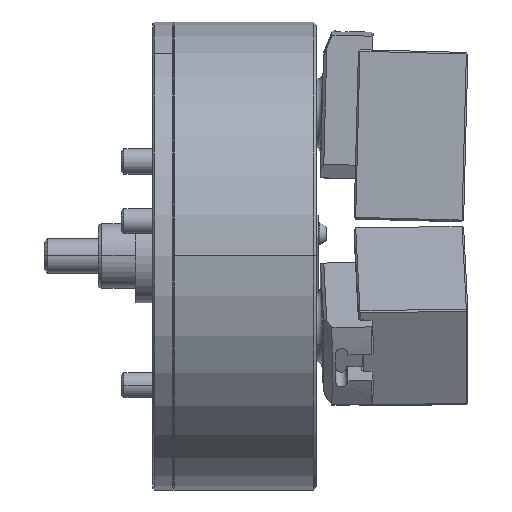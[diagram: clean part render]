
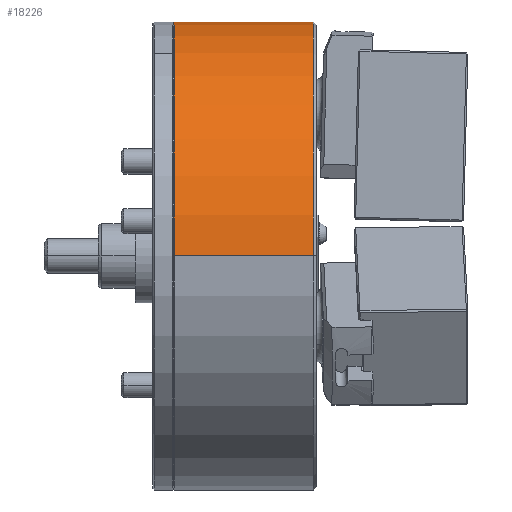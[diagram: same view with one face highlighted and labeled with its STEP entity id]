
A CAD part, top view. The second image highlights one B-rep face of the part: STEP entity #18226.
In plain terms, the highlighted cylindrical face has radius 150 mm (diameter 300 mm), a partial arc.
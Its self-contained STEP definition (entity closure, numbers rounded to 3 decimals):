
#20 = LINE ( 'NONE', #11459, #13282 ) ;
#2689 = CIRCLE ( 'NONE', #34589, 150. ) ;
#2725 = CARTESIAN_POINT ( 'NONE',  ( -2., 0., -150. ) ) ;
#2867 = DIRECTION ( 'NONE',  ( 0., 0., -1. ) ) ;
#4627 = CARTESIAN_POINT ( 'NONE',  ( -91.2, 0., -150. ) ) ;
#6179 = ORIENTED_EDGE ( 'NONE', *, *, #35058, .F. ) ;
#7551 = ORIENTED_EDGE ( 'NONE', *, *, #34485, .F. ) ;
#7895 = VERTEX_POINT ( 'NONE', #38786 ) ;
#8002 = LINE ( 'NONE', #8251, #35231 ) ;
#8251 = CARTESIAN_POINT ( 'NONE',  ( 63.843, 0., 150. ) ) ;
#10216 = EDGE_LOOP ( 'NONE', ( #42455, #22753, #6179, #7551 ) ) ;
#11459 = CARTESIAN_POINT ( 'NONE',  ( 63.843, 0., -150. ) ) ;
#12322 = AXIS2_PLACEMENT_3D ( 'NONE', #45600, #31124, #2867 ) ;
#13282 = VECTOR ( 'NONE', #37118, 1000. ) ;
#13746 = DIRECTION ( 'NONE',  ( 1., 0., 0. ) ) ;
#17810 = DIRECTION ( 'NONE',  ( 0., 0., -1. ) ) ;
#17878 = CIRCLE ( 'NONE', #33815, 150. ) ;
#18226 = ADVANCED_FACE ( 'NONE', ( #35426 ), #24730, .T. ) ;
#22753 = ORIENTED_EDGE ( 'NONE', *, *, #44999, .T. ) ;
#23284 = CARTESIAN_POINT ( 'NONE',  ( -2., 0., 0. ) ) ;
#23285 = VERTEX_POINT ( 'NONE', #4627 ) ;
#24730 = CYLINDRICAL_SURFACE ( 'NONE', #12322, 150. ) ;
#28428 = CARTESIAN_POINT ( 'NONE',  ( -91.2, 0., 0. ) ) ;
#29618 = EDGE_CURVE ( 'NONE', #23285, #7895, #17878, .T. ) ;
#31124 = DIRECTION ( 'NONE',  ( 1., 0., 0. ) ) ;
#33815 = AXIS2_PLACEMENT_3D ( 'NONE', #28428, #13746, #35806 ) ;
#34485 = EDGE_CURVE ( 'NONE', #23285, #40096, #20, .T. ) ;
#34589 = AXIS2_PLACEMENT_3D ( 'NONE', #23284, #42712, #17810 ) ;
#35058 = EDGE_CURVE ( 'NONE', #40096, #44833, #2689, .T. ) ;
#35231 = VECTOR ( 'NONE', #40277, 1000. ) ;
#35426 = FACE_OUTER_BOUND ( 'NONE', #10216, .T. ) ;
#35806 = DIRECTION ( 'NONE',  ( 0., 0., -1. ) ) ;
#37053 = CARTESIAN_POINT ( 'NONE',  ( -2., 0., 150. ) ) ;
#37118 = DIRECTION ( 'NONE',  ( 1., 0., 0. ) ) ;
#38786 = CARTESIAN_POINT ( 'NONE',  ( -91.2, 0., 150. ) ) ;
#40096 = VERTEX_POINT ( 'NONE', #2725 ) ;
#40277 = DIRECTION ( 'NONE',  ( 1., 0., 0. ) ) ;
#42455 = ORIENTED_EDGE ( 'NONE', *, *, #29618, .T. ) ;
#42712 = DIRECTION ( 'NONE',  ( 1., 0., 0. ) ) ;
#44833 = VERTEX_POINT ( 'NONE', #37053 ) ;
#44999 = EDGE_CURVE ( 'NONE', #7895, #44833, #8002, .T. ) ;
#45600 = CARTESIAN_POINT ( 'NONE',  ( 63.843, 0., 0. ) ) ;
